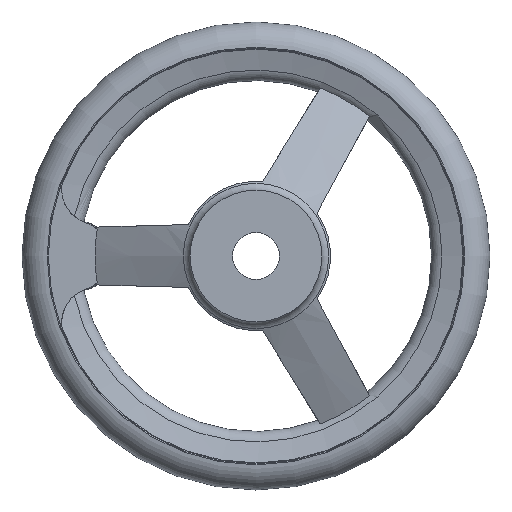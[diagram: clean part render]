
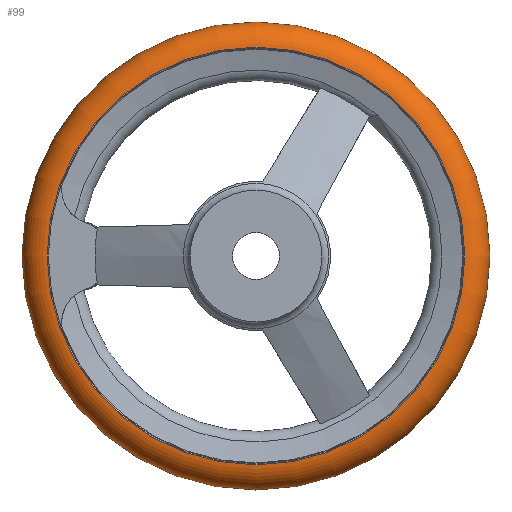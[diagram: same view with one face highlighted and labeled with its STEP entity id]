
A CAD part, left-side view. The second image highlights one B-rep face of the part: STEP entity #99.
In plain terms, the highlighted toroidal (fillet/blend) face has major radius 71 mm and minor radius 9 mm.
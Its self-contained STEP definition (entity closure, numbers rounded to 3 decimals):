
#99 = ADVANCED_FACE( '', ( #176, #177, #178 ), #179, .T. );
#176 = FACE_BOUND( '', #284, .T. );
#177 = FACE_OUTER_BOUND( '', #285, .T. );
#178 = FACE_OUTER_BOUND( '', #286, .T. );
#179 = TOROIDAL_SURFACE( '', #287, 71., 9. );
#284 = VERTEX_LOOP( '', #561 );
#285 = EDGE_LOOP( '', ( #562 ) );
#286 = EDGE_LOOP( '', ( #563 ) );
#287 = AXIS2_PLACEMENT_3D( '', #564, #565, #566 );
#561 = VERTEX_POINT( '', #738 );
#562 = ORIENTED_EDGE( '', *, *, #739, .T. );
#563 = ORIENTED_EDGE( '', *, *, #740, .F. );
#564 = CARTESIAN_POINT( '', ( 43., 0., 0. ) );
#565 = DIRECTION( '', ( 1., 0., 0. ) );
#566 = DIRECTION( '', ( 0., 1., 0. ) );
#738 = CARTESIAN_POINT( '', ( 43., 80., 0. ) );
#739 = EDGE_CURVE( '', #883, #883, #884, .T. );
#740 = EDGE_CURVE( '', #885, #885, #886, .T. );
#883 = VERTEX_POINT( '', #1385 );
#884 = CIRCLE( '', #1386, 71.375 );
#885 = VERTEX_POINT( '', #1387 );
#886 = CIRCLE( '', #1388, 71.375 );
#1385 = CARTESIAN_POINT( '', ( 34.008, 71.375, 0. ) );
#1386 = AXIS2_PLACEMENT_3D( '', #1509, #1510, #1511 );
#1387 = CARTESIAN_POINT( '', ( 51.992, 71.375, 0. ) );
#1388 = AXIS2_PLACEMENT_3D( '', #1512, #1513, #1514 );
#1509 = CARTESIAN_POINT( '', ( 34.008, 0., 0. ) );
#1510 = DIRECTION( '', ( 1., 0., 0. ) );
#1511 = DIRECTION( '', ( 0., 1., 0. ) );
#1512 = CARTESIAN_POINT( '', ( 51.992, 0., 0. ) );
#1513 = DIRECTION( '', ( 1., 0., 0. ) );
#1514 = DIRECTION( '', ( 0., 1., 0. ) );
